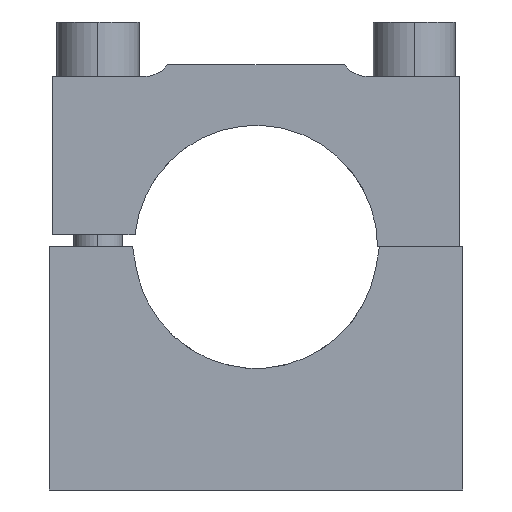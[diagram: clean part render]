
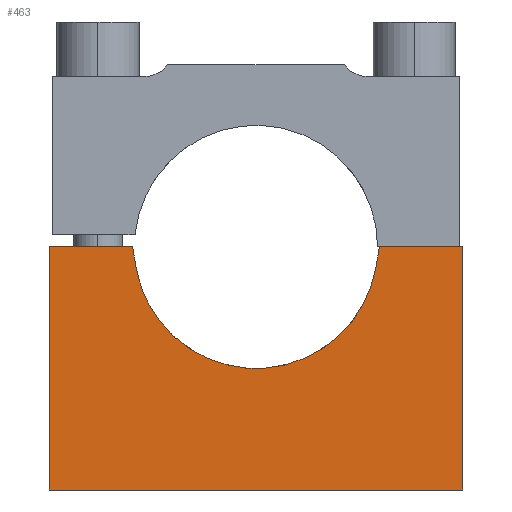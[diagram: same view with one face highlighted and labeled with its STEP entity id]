
A CAD part, front view. The second image highlights one B-rep face of the part: STEP entity #463.
In plain terms, the highlighted planar face has unit normal (0, -1, 0).
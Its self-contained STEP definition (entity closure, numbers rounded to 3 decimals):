
#463=ADVANCED_FACE('Pad.1',(#1096),#1097,.F.);
#1096=FACE_OUTER_BOUND('',#1917,.T.);
#1097=PLANE('',#1918);
#1917=EDGE_LOOP('',(#3135,#3136,#3137,#3138,#3139,#3140,#3141,#3142,#3143));
#1918=AXIS2_PLACEMENT_3D('',#3144,#3145,#3146);
#3135=ORIENTED_EDGE('',*,*,#5075,.F.);
#3136=ORIENTED_EDGE('',*,*,#5080,.F.);
#3137=ORIENTED_EDGE('',*,*,#5118,.F.);
#3138=ORIENTED_EDGE('',*,*,#5119,.F.);
#3139=ORIENTED_EDGE('',*,*,#5120,.F.);
#3140=ORIENTED_EDGE('',*,*,#5121,.F.);
#3141=ORIENTED_EDGE('',*,*,#5122,.F.);
#3142=ORIENTED_EDGE('',*,*,#5123,.F.);
#3143=ORIENTED_EDGE('',*,*,#5111,.F.);
#3144=CARTESIAN_POINT('',(0.0,-14.0,0.0));
#3145=DIRECTION('',(0.0,1.0,-0.0));
#3146=DIRECTION('',(-1.0,0.0,0.0));
#5075=EDGE_CURVE('',#6133,#6135,#6136,.T.);
#5080=EDGE_CURVE('',#6142,#6133,#6144,.F.);
#5111=EDGE_CURVE('',#6135,#6191,#6192,.F.);
#5118=EDGE_CURVE('',#6201,#6142,#6202,.F.);
#5119=EDGE_CURVE('',#6203,#6201,#6204,.F.);
#5120=EDGE_CURVE('',#6205,#6203,#6206,.F.);
#5121=EDGE_CURVE('',#6207,#6205,#6208,.T.);
#5122=EDGE_CURVE('',#6209,#6207,#6210,.F.);
#5123=EDGE_CURVE('',#6191,#6209,#6211,.F.);
#6133=VERTEX_POINT('',#8094);
#6135=VERTEX_POINT('',#8097);
#6136=LINE('',#8098,#8099);
#6142=VERTEX_POINT('',#8107);
#6144=CIRCLE('',#8110,20.0);
#6191=VERTEX_POINT('',#8503);
#6192=LINE('',#8504,#8505);
#6201=VERTEX_POINT('',#8515);
#6202=CIRCLE('',#8516,20.0);
#6203=VERTEX_POINT('',#8517);
#6204=LINE('',#8518,#8519);
#6205=VERTEX_POINT('',#8520);
#6206=LINE('',#8521,#8522);
#6207=VERTEX_POINT('',#8523);
#6208=LINE('',#8524,#8525);
#6209=VERTEX_POINT('',#8526);
#6210=LINE('',#8527,#8528);
#6211=LINE('',#8529,#8530);
#8094=CARTESIAN_POINT('',(19.691,-14.0,-3.5));
#8097=CARTESIAN_POINT('',(20.309,-14.0,0.0));
#8098=CARTESIAN_POINT('',(20.,-14.0,-1.75));
#8099=VECTOR('',#10059,1.0);
#8107=CARTESIAN_POINT('',(-17.552,-14.0,-9.589));
#8110=AXIS2_PLACEMENT_3D('',#10063,#10064,#10065);
#8503=CARTESIAN_POINT('',(34.0,-14.0,0.0));
#8504=CARTESIAN_POINT('',(27.154,-14.0,0.0));
#8505=VECTOR('',#10078,1.0);
#8515=CARTESIAN_POINT('',(-19.691,-14.0,-3.5));
#8516=AXIS2_PLACEMENT_3D('',#10092,#10093,#10094);
#8517=CARTESIAN_POINT('',(-20.309,-14.0,0.0));
#8518=CARTESIAN_POINT('',(-20.,-14.0,-1.75));
#8519=VECTOR('',#10095,1.0);
#8520=CARTESIAN_POINT('',(-34.0,-14.0,0.0));
#8521=CARTESIAN_POINT('',(-27.154,-14.0,0.0));
#8522=VECTOR('',#10096,1.0);
#8523=CARTESIAN_POINT('',(-34.0,-14.0,-40.0));
#8524=CARTESIAN_POINT('',(-34.0,-14.0,-20.0));
#8525=VECTOR('',#10097,1.0);
#8526=CARTESIAN_POINT('',(34.0,-14.0,-40.0));
#8527=CARTESIAN_POINT('',(0.0,-14.0,-40.0));
#8528=VECTOR('',#10098,1.0);
#8529=CARTESIAN_POINT('',(34.0,-14.0,-20.0));
#8530=VECTOR('',#10099,1.0);
#10059=DIRECTION('',(0.174,0.0,0.985));
#10063=CARTESIAN_POINT('',(0.,-14.0,0.));
#10064=DIRECTION('',(0.0,1.0,0.0));
#10065=DIRECTION('',(-1.0,0.0,0.0));
#10078=DIRECTION('',(-1.0,0.0,0.0));
#10092=CARTESIAN_POINT('',(0.,-14.0,0.));
#10093=DIRECTION('',(0.0,1.0,0.0));
#10094=DIRECTION('',(-1.0,0.0,0.0));
#10095=DIRECTION('',(-0.174,0.0,0.985));
#10096=DIRECTION('',(-1.0,0.0,0.0));
#10097=DIRECTION('',(0.0,0.0,1.0));
#10098=DIRECTION('',(1.0,0.0,0.0));
#10099=DIRECTION('',(0.0,0.0,1.0));
